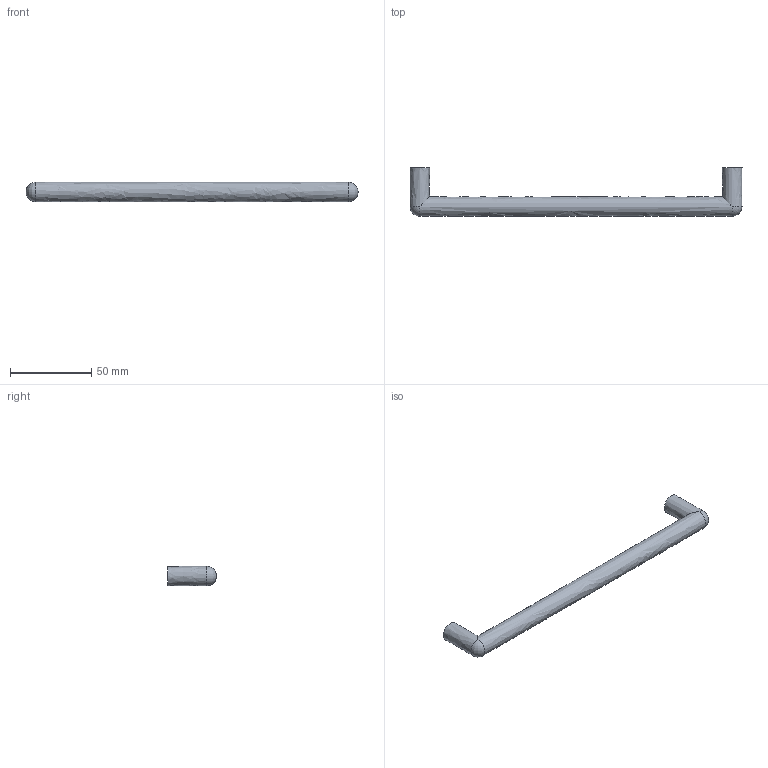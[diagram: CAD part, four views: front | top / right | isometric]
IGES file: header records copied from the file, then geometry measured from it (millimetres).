
Start section: Data from Parasolid IGES Translator 15.0.47, Copyright(c) 2006 Siemens P LM Software. All Rights Reserved.
Global section: file name:  9070992.igs; native system:  By UGS Corp.; preprocessor: XPlus GENERIC/IGES 3.0; author: Noname; organization: Noname; date: 20140122.181530; units: millimetre
Bounding box: 204 x 30 x 12 mm (x, y, z)
Surface area: 9526.3 mm2 (no closed solid volume)
Topology: 0 solids, 0 shells, 11 faces, 38 edges, 30 vertices
Faces by surface type: revolution 7, extrusion 4
